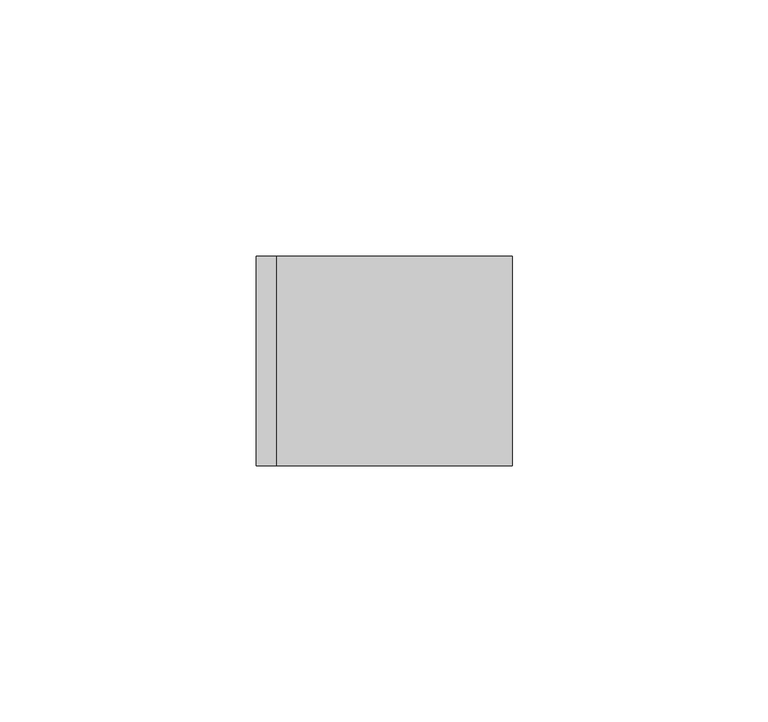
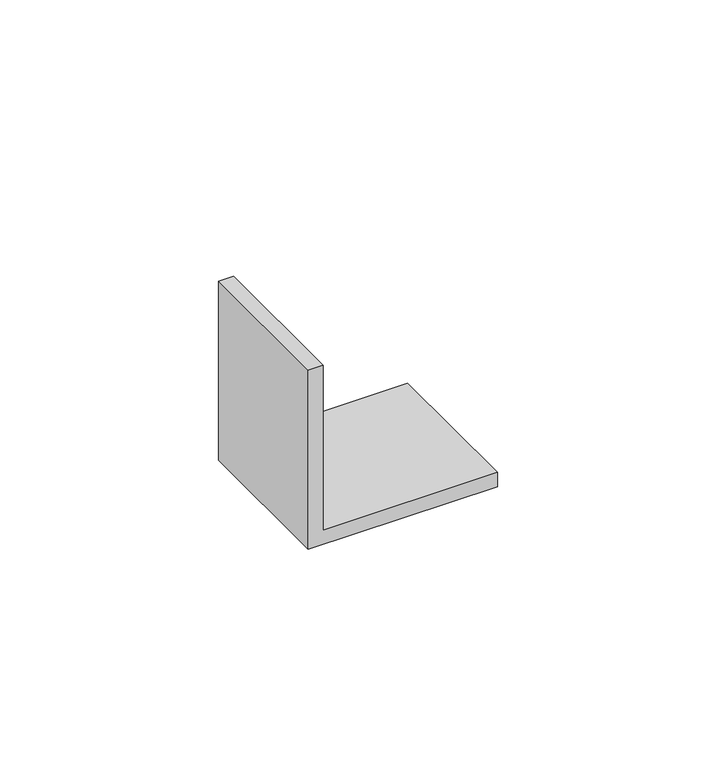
"""IFC4 building model written with IfcOpenShell, lengths in millimetres: proxy geometry, 4182C_Accessory-Basorfix : Basorfix 4182C GC70."""

from ifc_helpers import new_model, si_unit, frame, origin, place, context, project, spatial, polyline, outline, extrude, source, transform, mapped, element, save


def generic_models_c0002f18(model_context):
    return source(origin(), model_context, "Body", "SweptSolid", [
        extrude(outline(polyline([(0.0, 0.0), (0.0, 50.0), (4.0, 50.0), (4.0, 4.0), (50.0, 4.0), (50.0, 0.0), (0.0, 0.0)])), frame((0.0, -20.5, 0.0), z_axis=(0.0, 1.0, 0.0), x_axis=(0.0, 0.0, 1.0)), (0.0, 0.0, 1.0), 41.0),
    ])


if __name__ == "__main__":
    model = new_model("IFC4")
    model_context = context("Model", 3, world=origin())
    ifc_project = project(units=[si_unit("LENGTHUNIT", "METRE", prefix="MILLI")], contexts=[model_context])
    site = spatial("IfcSite", under=ifc_project)
    building = spatial("IfcBuilding", under=site)
    placement = place(None, origin())
    generic_models_shape = generic_models_c0002f18(model_context)
    element("IfcBuildingElementProxy", 1, Name="4182C_Accessory-Basorfix : Basorfix 4182C GC70", ObjectType="4182C_Accessory-Basorfix : Basorfix 4182C GC70", at=placement, inside=building, context=model_context, shape_type="MappedRepresentation", body=[
        mapped(generic_models_shape, transform((0.0, 0.0, 0.0), x_axis=(1.0, 0.0, 0.0), y_axis=(0.0, 1.0, 0.0), z_axis=(0.0, 0.0, 1.0))),
    ])
    save(model, "model.ifc")
